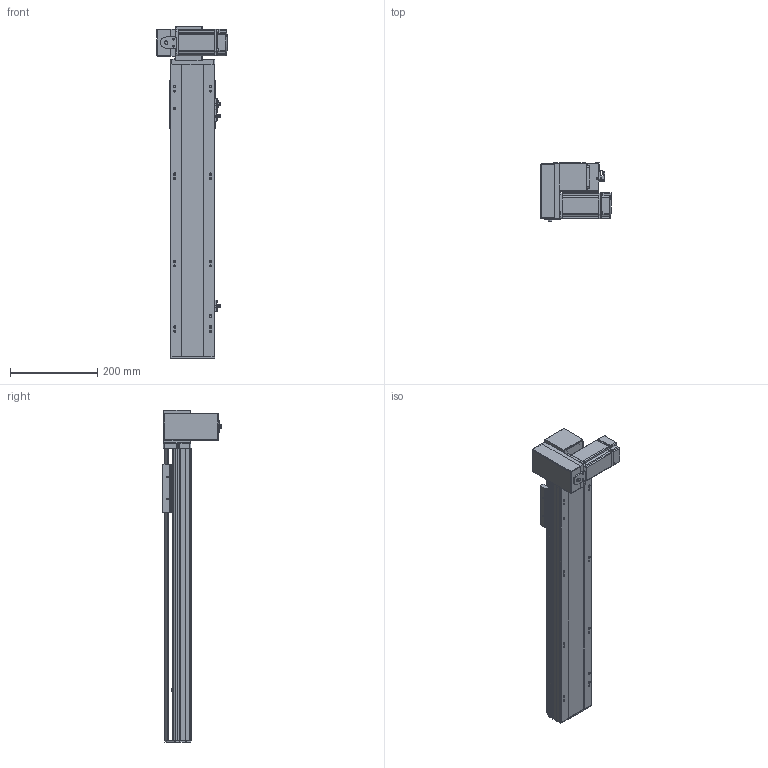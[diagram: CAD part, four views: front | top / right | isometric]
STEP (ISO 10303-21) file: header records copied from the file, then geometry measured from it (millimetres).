
FILE_DESCRIPTION (( 'STEP AP214' ), '1' );
FILE_NAME ('TPT10-L32-450-LD-T10-C4.STEP', '2023-03-02T10:13:56', ( '' ), ( '' ), 'SwSTEP 2.0', 'SolidWorks 2020', '' );
FILE_SCHEMA (( 'AUTOMOTIVE_DESIGN' ));
Length unit declared in the file: millimetre
Products named in the file (12): 葩璃 TPT10-L-009 萇儂啣^TPT10-L32-LD-T10-C4_100W; 葩璃 TPT10-L-002 奻裔MZ-102A-02^TPT10-L32-LD-T10-C4; 葩璃 pm-t65-672^TPT10-L32-LD-T10-C4; hexagon socket head cap screws gb_GB_FASTENER_SCREWS_HSHCS M3X6-N; TPT10-L32-450-LD-T10-C4; hexagon head bolts-full thread gb_GB_FASTENER_BOLT_STBAB A M5X16-N; 葩璃 TPT10-L-005 賑釱MZ-102A-03^TPT10-L32-LD-T10-C4; hex nuts, style 1-grades ab gb_GB_FASTENER_NUT_SNAB1 M3-N; 葩璃 侂狟100W^TPT10-L32-LD-T10-C4; 葩璃 侂狟400W^TPT10-L32-LD-T10-C4; 葩璃 TPT10-L-001 菁釱MZ-102A-01^TPT10-L32-LD-T10-C4; 葩璃 TPT10-L-007 々湍釱MZ-169x88^TPT10-L32-LD-T10-C4_L
Assembly tree (23 placements, depth 2):
  TPT10-L32-450-LD-T10-C4
    葩璃 TPT10-L-001 菁釱MZ-102A-01^TPT10-L32-LD-T10-C4
    葩璃 TPT10-L-002 奻裔MZ-102A-02^TPT10-L32-LD-T10-C4
    葩璃 TPT10-L-007 々湍釱MZ-169x88^TPT10-L32-LD-T10-C4_L
    葩璃 TPT10-L-005 賑釱MZ-102A-03^TPT10-L32-LD-T10-C4
    葩璃 TPT10-L-009 萇儂啣^TPT10-L32-LD-T10-C4_100W
    葩璃 pm-t65-672^TPT10-L32-LD-T10-C4  x3
    葩璃 侂狟100W^TPT10-L32-LD-T10-C4
    葩璃 侂狟400W^TPT10-L32-LD-T10-C4
    hexagon head bolts-full thread gb_GB_FASTENER_BOLT_STBAB A M5X16-N
    hexagon socket head cap screws gb_GB_FASTENER_SCREWS_HSHCS M3X6-N  x6
    hex nuts, style 1-grades ab gb_GB_FASTENER_NUT_SNAB1 M3-N  x6
Bounding box: 160.5 x 134.65 x 760 mm (x, y, z)
Volume: 2915654.8 mm3; surface area: 605922.6 mm2
Topology: 31 solids, 31 shells, 1873 faces, 4895 edges, 3133 vertices
Faces by surface type: plane 1038, cylinder 599, cone 190, bspline 34, torus 12
Entity records: 46937 total; most frequent: CARTESIAN_POINT 9192, DIRECTION 7686, ORIENTED_EDGE 7422, EDGE_CURVE 3711, AXIS2_PLACEMENT_3D 2692, VERTEX_POINT 2424, VECTOR 2302, LINE 2302
